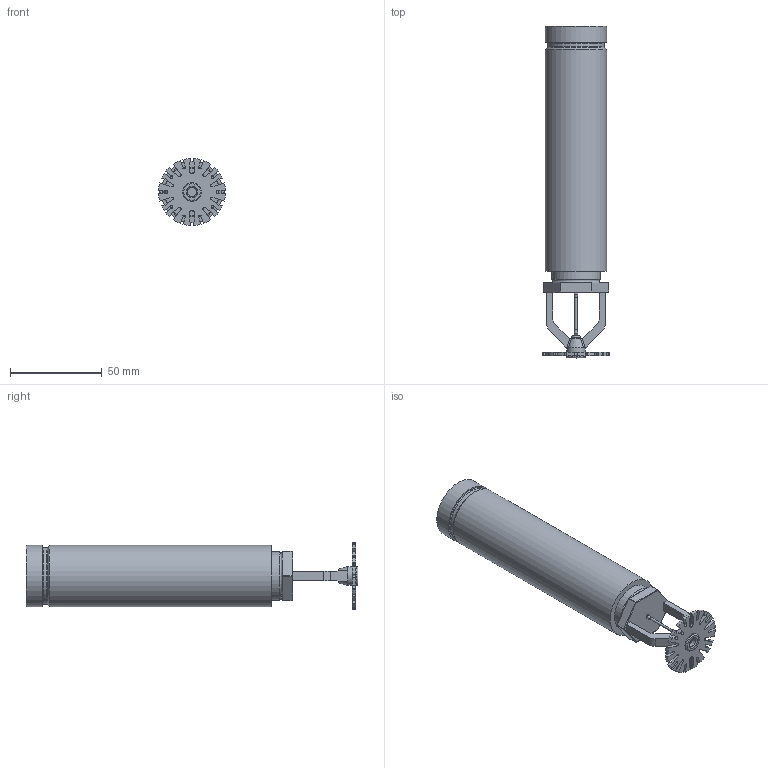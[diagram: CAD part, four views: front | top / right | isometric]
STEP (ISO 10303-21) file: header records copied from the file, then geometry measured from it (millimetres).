
FILE_DESCRIPTION(/* description */ ('VIC SPRINKLER V3614 K5.6 DRY PENDENT QUICK RESPONSE (IGS)'),/* implementation_level */ '2;1');
FILE_NAME(/* name */ 'C:\Users\Public\Documents\Victaulic.Temp\A572\Victaulic_FP-Sprinkler_V3614_DRY_QR_Pendent (IGS)_PLN_1 (25).stp',/* time_stamp */ '2024-09-24T08:13:21+02:00',/* author */ ('kkamble'),/* organization */ ('Victaulic'),/* preprocessor_version */ 'ST-DEVELOPER v18',/* originating_system */ 'Autodesk Inventor 2020',/* authorisation */ '');
FILE_SCHEMA (('AUTOMOTIVE_DESIGN { 1 0 10303 214 3 1 1 }'));
Length unit declared in the file: inch
Products named in the file (2): V3614_Plain-01.0; V3614-01
Assembly tree (1 placements, depth 2):
  V3614_Plain-01.0
    V3614-01
Bounding box: 36.48 x 180.66 x 36.48 mm (x, y, z)
Volume: 51927.6 mm3; surface area: 32562.2 mm2
Topology: 1 solids, 1 shells, 226 faces, 618 edges, 395 vertices
Faces by surface type: plane 105, cylinder 87, sphere 12, bspline 10, cone 7, torus 5
Full cylindrical faces by diameter (mm): 1.27 x1, 5.08 x2, 10.16 x2, 20.93 x1, 26.645 x1, 26.67 x1, 30.861 x1, 33.401 x2
Entity records: 7781 total; most frequent: CARTESIAN_POINT 1644, DIRECTION 1258, ORIENTED_EDGE 1226, EDGE_CURVE 613, AXIS2_PLACEMENT_3D 457, VERTEX_POINT 395, LINE 344, VECTOR 344
